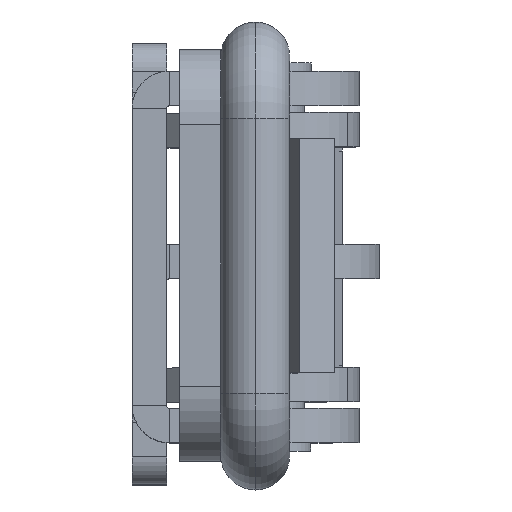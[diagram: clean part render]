
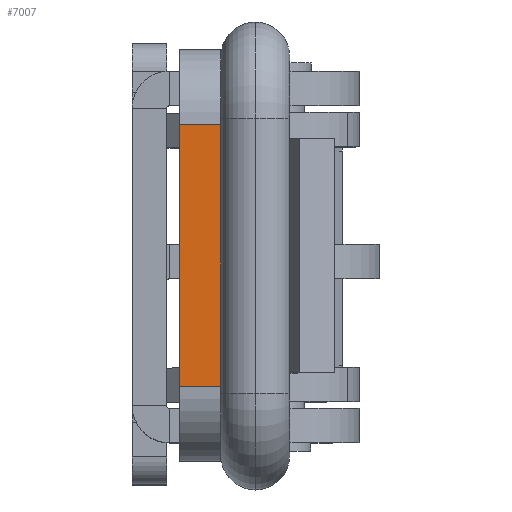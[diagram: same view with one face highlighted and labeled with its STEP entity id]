
A CAD part, top view. The second image highlights one B-rep face of the part: STEP entity #7007.
In plain terms, the highlighted planar face has unit normal (0, 0, 1) as drawn and (1, 0, 0) by its records, which use the part's own axes.
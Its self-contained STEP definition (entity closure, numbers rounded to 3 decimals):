
#281 = VERTEX_POINT ( 'NONE', #6684 ) ;
#578 = LINE ( 'NONE', #4338, #4070 ) ;
#622 = DIRECTION ( 'NONE',  ( 0., 0., -1. ) ) ;
#739 = CARTESIAN_POINT ( 'NONE',  ( 0., 5.5, -8.274 ) ) ;
#894 = EDGE_CURVE ( 'NONE', #5983, #1610, #8371, .T. ) ;
#1610 = VERTEX_POINT ( 'NONE', #2444 ) ;
#1633 = CARTESIAN_POINT ( 'NONE',  ( 0., 24.5, -8.274 ) ) ;
#2444 = CARTESIAN_POINT ( 'NONE',  ( 0., 5.5, 3. ) ) ;
#2544 = EDGE_CURVE ( 'NONE', #281, #5983, #4281, .T. ) ;
#2610 = EDGE_CURVE ( 'NONE', #281, #3472, #578, .T. ) ;
#2810 = FACE_OUTER_BOUND ( 'NONE', #4036, .T. ) ;
#2852 = DIRECTION ( 'NONE',  ( 0., -1., 0. ) ) ;
#3037 = CARTESIAN_POINT ( 'NONE',  ( 0., 24.5, 3. ) ) ;
#3262 = PLANE ( 'NONE',  #5229 ) ;
#3281 = VECTOR ( 'NONE', #2852, 1000. ) ;
#3472 = VERTEX_POINT ( 'NONE', #3561 ) ;
#3561 = CARTESIAN_POINT ( 'NONE',  ( 0., 5.5, 0. ) ) ;
#3896 = ORIENTED_EDGE ( 'NONE', *, *, #2544, .T. ) ;
#4036 = EDGE_LOOP ( 'NONE', ( #7478, #6222, #3896, #4594 ) ) ;
#4070 = VECTOR ( 'NONE', #8339, 1000. ) ;
#4281 = LINE ( 'NONE', #1633, #7858 ) ;
#4338 = CARTESIAN_POINT ( 'NONE',  ( 0., 30., 0. ) ) ;
#4585 = DIRECTION ( 'NONE',  ( 1., 0., 0. ) ) ;
#4594 = ORIENTED_EDGE ( 'NONE', *, *, #894, .T. ) ;
#5079 = VECTOR ( 'NONE', #6059, 1000. ) ;
#5229 = AXIS2_PLACEMENT_3D ( 'NONE', #8587, #4585, #622 ) ;
#5983 = VERTEX_POINT ( 'NONE', #3037 ) ;
#6059 = DIRECTION ( 'NONE',  ( 0., 0., 1. ) ) ;
#6171 = CARTESIAN_POINT ( 'NONE',  ( 0., 30., 3. ) ) ;
#6222 = ORIENTED_EDGE ( 'NONE', *, *, #2610, .F. ) ;
#6314 = DIRECTION ( 'NONE',  ( 0., 0., 1. ) ) ;
#6530 = EDGE_CURVE ( 'NONE', #3472, #1610, #7700, .T. ) ;
#6684 = CARTESIAN_POINT ( 'NONE',  ( 0., 24.5, 0. ) ) ;
#7007 = ADVANCED_FACE ( 'NONE', ( #2810 ), #3262, .T. ) ;
#7478 = ORIENTED_EDGE ( 'NONE', *, *, #6530, .F. ) ;
#7700 = LINE ( 'NONE', #739, #5079 ) ;
#7858 = VECTOR ( 'NONE', #6314, 1000. ) ;
#8339 = DIRECTION ( 'NONE',  ( 0., -1., 0. ) ) ;
#8371 = LINE ( 'NONE', #6171, #3281 ) ;
#8587 = CARTESIAN_POINT ( 'NONE',  ( 0., 30., 0. ) ) ;
